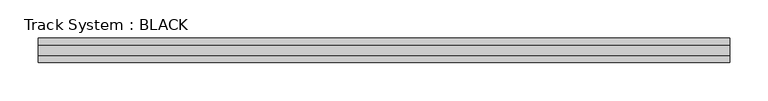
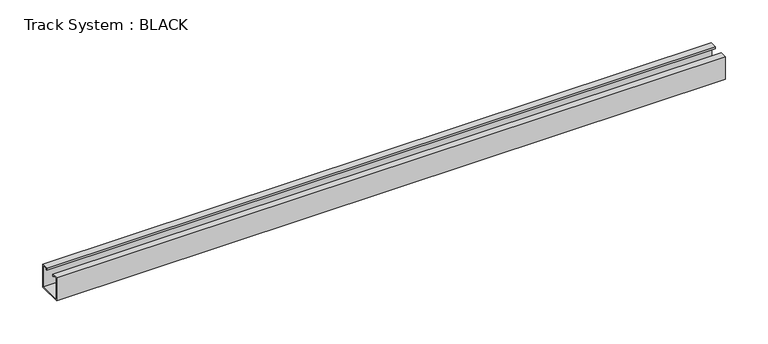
"""IFC4 building model written with IfcOpenShell, lengths in millimetres: proxy geometry, Track System : BLACK."""

from ifc_helpers import new_model, si_unit, frame, origin, place, context, project, spatial, polyline, outline, extrude, source, transform, mapped, element, save


def track_system_black_48cd3958(model_context):
    return source(origin(), model_context, "Body", "SweptSolid", [
        extrude(outline(polyline([(-7.0, 32.5), (-7.0, 29.5366355), (-8.0, 29.5366355), (-8.0, 31.5), (-14.9857524, 31.5), (-14.9857524, 1.0), (15.0, 1.0), (15.0, 31.5), (8.0, 31.5), (8.0, 29.5366355), (7.0, 29.5366355), (7.0, 32.5), (16.0, 32.5), (16.0, 0.0), (-15.9857524, 0.0), (-15.9857524, 32.5), (-7.0, 32.5)])), frame((-450.0, 0.0, 0.0), z_axis=(1.0, 0.0, 0.0), x_axis=(0.0, 1.0, 0.0)), (0.0, 0.0, 1.0), 900.0),
    ])


if __name__ == "__main__":
    model = new_model("IFC4")
    model_context = context("Model", 3, world=origin())
    ifc_project = project(units=[si_unit("LENGTHUNIT", "METRE", prefix="MILLI")], contexts=[model_context])
    site = spatial("IfcSite", under=ifc_project)
    building = spatial("IfcBuilding", under=site)
    placement = place(None, origin())
    track_system_black_shape = track_system_black_48cd3958(model_context)
    element("IfcBuildingElementProxy", 1, Name="Track System : BLACK", ObjectType="Track System : BLACK", at=placement, inside=building, context=model_context, shape_type="MappedRepresentation", body=[
        mapped(track_system_black_shape, transform((0.0, 0.0, 0.0), x_axis=(1.0, 0.0, 0.0), y_axis=(0.0, 1.0, 0.0), z_axis=(0.0, 0.0, 1.0))),
    ])
    save(model, "model.ifc")
